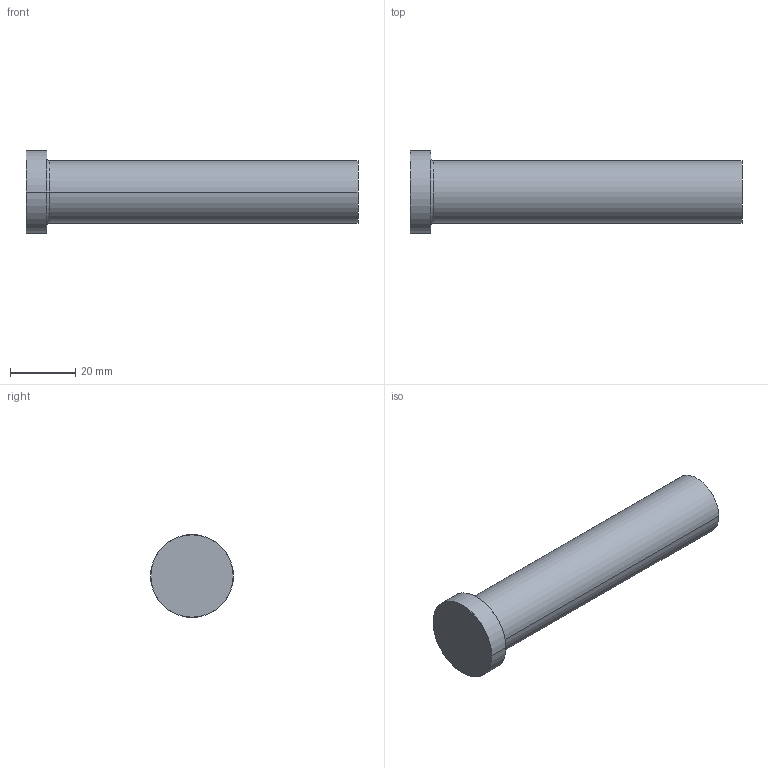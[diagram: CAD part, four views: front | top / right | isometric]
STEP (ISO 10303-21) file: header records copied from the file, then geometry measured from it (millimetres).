
FILE_DESCRIPTION (( 'STEP AP214' ), '1' );
FILE_NAME ('P41-4.STEP', '2020-03-12T12:16:44', ( '' ), ( '' ), 'SwSTEP 2.0', 'SolidWorks 2018', '' );
FILE_SCHEMA (( 'AUTOMOTIVE_DESIGN' ));
Length unit declared in the file: inch
Products named in the file (1): P41-4
Bounding box: 101.6 x 25.4 x 25.4 mm (x, y, z)
Volume: 30336.6 mm3; surface area: 7188 mm2
Topology: 1 solids, 1 shells, 13 faces, 24 edges, 14 vertices
Faces by surface type: cone 4, cylinder 4, plane 3, torus 2
Entity records: 366 total; most frequent: DIRECTION 68, CARTESIAN_POINT 52, ORIENTED_EDGE 48, AXIS2_PLACEMENT_3D 30, EDGE_CURVE 24, CIRCLE 16, VERTEX_POINT 14, EDGE_LOOP 14
